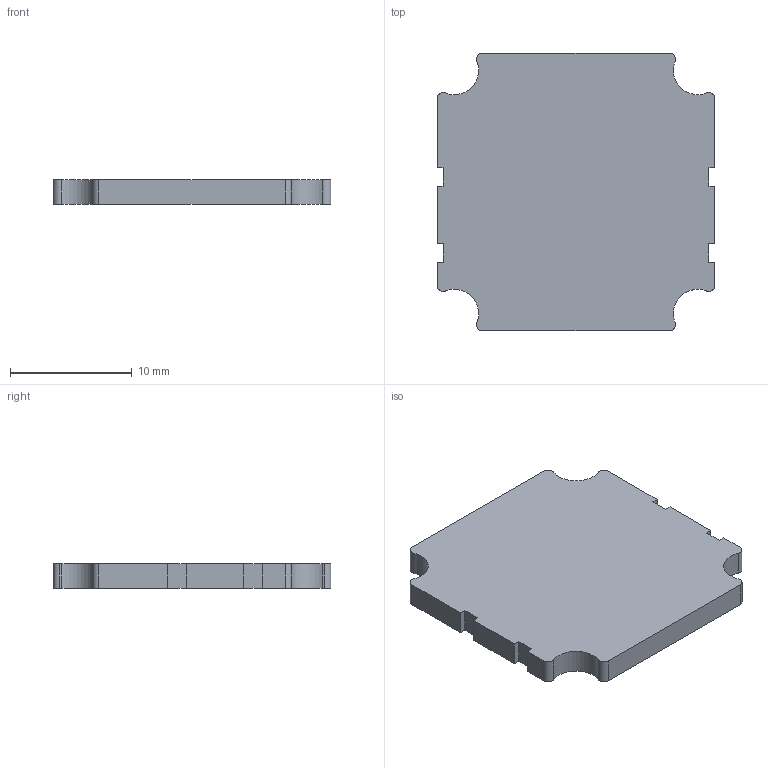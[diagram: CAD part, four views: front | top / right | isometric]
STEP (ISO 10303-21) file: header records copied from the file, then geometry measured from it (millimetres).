
FILE_DESCRIPTION (( 'STEP AP203' ), '1' );
FILE_NAME ('芵隴湖荂璃B.STEP', '2025-08-19T16:53:51', ( '' ), ( '' ), 'SwSTEP 2.0', 'SolidWorks 2025', '' );
FILE_SCHEMA (( 'CONFIG_CONTROL_DESIGN' ));
Length unit declared in the file: millimetre
Products named in the file (1): 透明打印件B
Bounding box: 22.83 x 22.83 x 2 mm (x, y, z)
Volume: 951.4 mm3; surface area: 1134.8 mm2
Topology: 1 solids, 1 shells, 38 faces, 108 edges, 72 vertices
Faces by surface type: plane 22, cylinder 16
Entity records: 1321 total; most frequent: CARTESIAN_POINT 219, DIRECTION 218, ORIENTED_EDGE 216, EDGE_CURVE 108, LINE 76, VECTOR 76, VERTEX_POINT 72, AXIS2_PLACEMENT_3D 71
